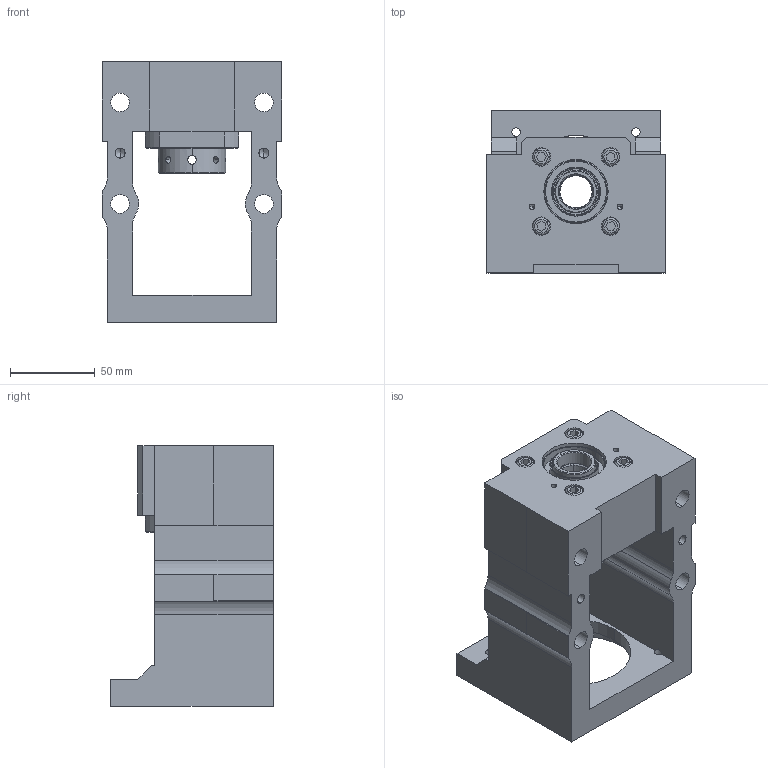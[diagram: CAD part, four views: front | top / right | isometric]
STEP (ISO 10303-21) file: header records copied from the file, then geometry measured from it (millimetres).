
FILE_DESCRIPTION (( 'STEP AP203' ), '1' );
FILE_NAME ('MBCS20H-X組合圖.STEP', '2023-02-03T01:51:13', ( '' ), ( '' ), 'SwSTEP 2.0', 'SolidWorks 2018', '' );
FILE_SCHEMA (( 'CONFIG_CONTROL_DESIGN' ));
Length unit declared in the file: millimetre
Products named in the file (8): MBC20H-X傳動座_網路用圖; MBC20ｻ\_ｬqｮt2mm; WBK20馬達座套筒_成品圖; 20TAC47; MBCS20H-X組合圖; WBK20螺母_WBK20鎖緊螺母; AK系列密封圈_AK20密封圈; 承頭螺絲-模組_M6L45
Assembly tree (12 placements, depth 2):
  MBCS20H-X組合圖
    MBC20H-X傳動座_網路用圖
    MBC20ｻ\_ｬqｮt2mm
    WBK20馬達座套筒_成品圖  x2
    20TAC47  x2
    WBK20螺母_WBK20鎖緊螺母
    AK系列密封圈_AK20密封圈
    承頭螺絲-模組_M6L45  x4
Bounding box: 106 x 96 x 154 mm (x, y, z)
Volume: 594629 mm3; surface area: 148268.4 mm2
Topology: 42 solids, 42 shells, 519 faces, 1287 edges, 798 vertices
Faces by surface type: cylinder 181, plane 130, cone 96, torus 56, sphere 56
Entity records: 12671 total; most frequent: CARTESIAN_POINT 2617, DIRECTION 2061, ORIENTED_EDGE 1746, EDGE_CURVE 873, AXIS2_PLACEMENT_3D 832, VERTEX_POINT 556, EDGE_LOOP 467, CIRCLE 432
